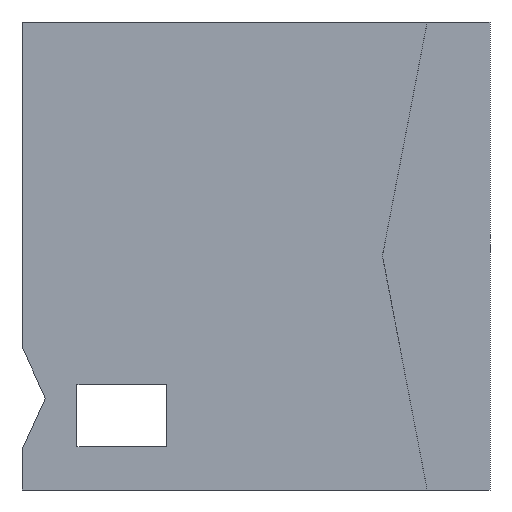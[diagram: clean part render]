
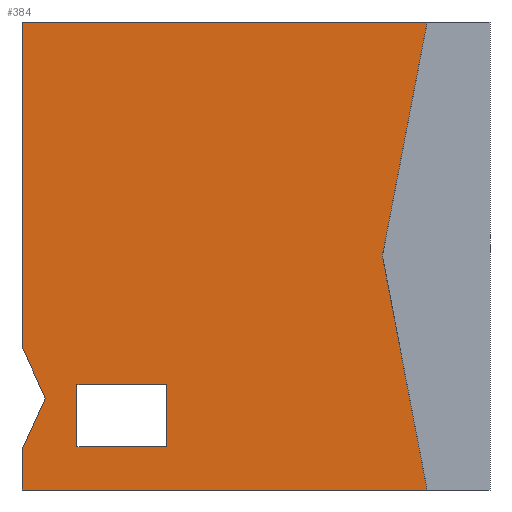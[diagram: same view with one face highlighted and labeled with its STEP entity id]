
A CAD part, front view. The second image highlights one B-rep face of the part: STEP entity #384.
In plain terms, the highlighted planar face has unit normal (0, -1, 0).
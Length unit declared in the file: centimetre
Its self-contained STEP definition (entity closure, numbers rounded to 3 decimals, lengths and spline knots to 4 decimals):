
#20 = CARTESIAN_POINT ( 'NONE',  ( 50., 0., 195.9468 ) ) ;
#33 = VERTEX_POINT ( 'NONE', #187 ) ;
#35 = LINE ( 'NONE', #309, #708 ) ;
#41 = LINE ( 'NONE', #653, #667 ) ;
#45 = CARTESIAN_POINT ( 'NONE',  ( 865.7873, 0., 0. ) ) ;
#68 = ORIENTED_EDGE ( 'NONE', *, *, #204, .T. ) ;
#69 = CARTESIAN_POINT ( 'NONE',  ( 0., 0., 306.0379 ) ) ;
#78 = CARTESIAN_POINT ( 'NONE',  ( 117.51, 0., 92.7813 ) ) ;
#90 = ORIENTED_EDGE ( 'NONE', *, *, #190, .T. ) ;
#101 = ORIENTED_EDGE ( 'NONE', *, *, #633, .F. ) ;
#105 = CARTESIAN_POINT ( 'NONE',  ( 0., 0., 1000. ) ) ;
#110 = DIRECTION ( 'NONE',  ( 1., 0., 0. ) ) ;
#120 = LINE ( 'NONE', #407, #583 ) ;
#124 = EDGE_CURVE ( 'NONE', #814, #396, #784, .T. ) ;
#125 = ORIENTED_EDGE ( 'NONE', *, *, #474, .T. ) ;
#137 = CARTESIAN_POINT ( 'NONE',  ( 865.7873, 0., 1000. ) ) ;
#154 = ORIENTED_EDGE ( 'NONE', *, *, #472, .T. ) ;
#159 = LINE ( 'NONE', #698, #600 ) ;
#167 = LINE ( 'NONE', #105, #257 ) ;
#168 = VERTEX_POINT ( 'NONE', #45 ) ;
#184 = VECTOR ( 'NONE', #110, 100. ) ;
#187 = CARTESIAN_POINT ( 'NONE',  ( 0., 0., 0. ) ) ;
#188 = CARTESIAN_POINT ( 'NONE',  ( 0., 0., 1000. ) ) ;
#190 = EDGE_CURVE ( 'NONE', #312, #740, #41, .T. ) ;
#191 = VERTEX_POINT ( 'NONE', #579 ) ;
#196 = DIRECTION ( 'NONE',  ( 0., 0., -1. ) ) ;
#198 = VECTOR ( 'NONE', #663, 100. ) ;
#204 = EDGE_CURVE ( 'NONE', #573, #312, #35, .T. ) ;
#208 = VECTOR ( 'NONE', #861, 100. ) ;
#211 = DIRECTION ( 'NONE',  ( 0.188, 0., -0.982 ) ) ;
#245 = DIRECTION ( 'NONE',  ( 0., 1., 0. ) ) ;
#257 = VECTOR ( 'NONE', #645, 100. ) ;
#262 = PLANE ( 'NONE',  #374 ) ;
#281 = CARTESIAN_POINT ( 'NONE',  ( 0., 0., 1000. ) ) ;
#291 = CARTESIAN_POINT ( 'NONE',  ( 770.0746, 0., 500. ) ) ;
#295 = VECTOR ( 'NONE', #380, 100. ) ;
#302 = ORIENTED_EDGE ( 'NONE', *, *, #819, .T. ) ;
#306 = CARTESIAN_POINT ( 'NONE',  ( 308.4806, 0., 225.3182 ) ) ;
#309 = CARTESIAN_POINT ( 'NONE',  ( 117.51, 0., 92.7813 ) ) ;
#312 = VERTEX_POINT ( 'NONE', #332 ) ;
#313 = EDGE_CURVE ( 'NONE', #578, #814, #865, .T. ) ;
#319 = ORIENTED_EDGE ( 'NONE', *, *, #436, .F. ) ;
#327 = CARTESIAN_POINT ( 'NONE',  ( 50., 0., 195.9468 ) ) ;
#332 = CARTESIAN_POINT ( 'NONE',  ( 117.51, 0., 225.3182 ) ) ;
#342 = CARTESIAN_POINT ( 'NONE',  ( 865.7873, 0., 1000. ) ) ;
#347 = EDGE_LOOP ( 'NONE', ( #302, #68, #90, #738 ) ) ;
#374 = AXIS2_PLACEMENT_3D ( 'NONE', #870, #245, #673 ) ;
#380 = DIRECTION ( 'NONE',  ( -0.414, 0., -0.91 ) ) ;
#384 = ADVANCED_FACE ( 'NONE', ( #723, #790 ), #262, .F. ) ;
#396 = VERTEX_POINT ( 'NONE', #412 ) ;
#400 = CARTESIAN_POINT ( 'NONE',  ( 117.51, 0., 92.7813 ) ) ;
#402 = ORIENTED_EDGE ( 'NONE', *, *, #313, .T. ) ;
#407 = CARTESIAN_POINT ( 'NONE',  ( 0., 0., 0. ) ) ;
#412 = CARTESIAN_POINT ( 'NONE',  ( 0., 0., 85.8558 ) ) ;
#436 = EDGE_CURVE ( 'NONE', #513, #717, #661, .T. ) ;
#447 = CARTESIAN_POINT ( 'NONE',  ( 0., 0., 85.8558 ) ) ;
#457 = DIRECTION ( 'NONE',  ( 0., 0., 1. ) ) ;
#472 = EDGE_CURVE ( 'NONE', #33, #168, #120, .T. ) ;
#474 = EDGE_CURVE ( 'NONE', #509, #578, #476, .T. ) ;
#476 = LINE ( 'NONE', #188, #670 ) ;
#490 = VECTOR ( 'NONE', #655, 100. ) ;
#509 = VERTEX_POINT ( 'NONE', #281 ) ;
#513 = VERTEX_POINT ( 'NONE', #137 ) ;
#520 = DIRECTION ( 'NONE',  ( 0., 0., -1. ) ) ;
#523 = CARTESIAN_POINT ( 'NONE',  ( 0., 0., 1000. ) ) ;
#533 = DIRECTION ( 'NONE',  ( 1., 0., 0. ) ) ;
#559 = LINE ( 'NONE', #826, #635 ) ;
#566 = LINE ( 'NONE', #400, #490 ) ;
#573 = VERTEX_POINT ( 'NONE', #78 ) ;
#578 = VERTEX_POINT ( 'NONE', #69 ) ;
#579 = CARTESIAN_POINT ( 'NONE',  ( 308.4806, 0., 92.7813 ) ) ;
#583 = VECTOR ( 'NONE', #533, 100. ) ;
#587 = LINE ( 'NONE', #523, #184 ) ;
#590 = DIRECTION ( 'NONE',  ( 1., 0., 0. ) ) ;
#600 = VECTOR ( 'NONE', #520, 100. ) ;
#612 = ORIENTED_EDGE ( 'NONE', *, *, #770, .T. ) ;
#633 = EDGE_CURVE ( 'NONE', #717, #168, #559, .T. ) ;
#635 = VECTOR ( 'NONE', #211, 100. ) ;
#645 = DIRECTION ( 'NONE',  ( 0., 0., -1. ) ) ;
#653 = CARTESIAN_POINT ( 'NONE',  ( 117.51, 0., 225.3182 ) ) ;
#655 = DIRECTION ( 'NONE',  ( -1., 0., 0. ) ) ;
#661 = LINE ( 'NONE', #342, #208 ) ;
#663 = DIRECTION ( 'NONE',  ( 0.414, 0., -0.91 ) ) ;
#667 = VECTOR ( 'NONE', #590, 100. ) ;
#670 = VECTOR ( 'NONE', #196, 100. ) ;
#672 = ORIENTED_EDGE ( 'NONE', *, *, #124, .T. ) ;
#673 = DIRECTION ( 'NONE',  ( 0., 0., 1. ) ) ;
#692 = EDGE_CURVE ( 'NONE', #740, #191, #159, .T. ) ;
#698 = CARTESIAN_POINT ( 'NONE',  ( 308.4806, 0., 92.7813 ) ) ;
#708 = VECTOR ( 'NONE', #457, 100. ) ;
#717 = VERTEX_POINT ( 'NONE', #291 ) ;
#723 = FACE_BOUND ( 'NONE', #347, .T. ) ;
#738 = ORIENTED_EDGE ( 'NONE', *, *, #692, .T. ) ;
#740 = VERTEX_POINT ( 'NONE', #306 ) ;
#755 = ORIENTED_EDGE ( 'NONE', *, *, #844, .F. ) ;
#770 = EDGE_CURVE ( 'NONE', #396, #33, #167, .T. ) ;
#783 = EDGE_LOOP ( 'NONE', ( #402, #672, #612, #154, #101, #319, #755, #125 ) ) ;
#784 = LINE ( 'NONE', #447, #295 ) ;
#790 = FACE_OUTER_BOUND ( 'NONE', #783, .T. ) ;
#814 = VERTEX_POINT ( 'NONE', #20 ) ;
#819 = EDGE_CURVE ( 'NONE', #191, #573, #566, .T. ) ;
#826 = CARTESIAN_POINT ( 'NONE',  ( 770.0746, 0., 500. ) ) ;
#844 = EDGE_CURVE ( 'NONE', #509, #513, #587, .T. ) ;
#861 = DIRECTION ( 'NONE',  ( -0.188, 0., -0.982 ) ) ;
#865 = LINE ( 'NONE', #327, #198 ) ;
#870 = CARTESIAN_POINT ( 'NONE',  ( 0., 0., 1000. ) ) ;
